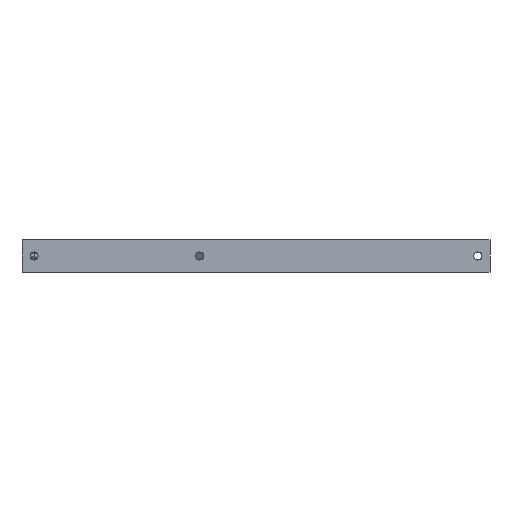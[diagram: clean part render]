
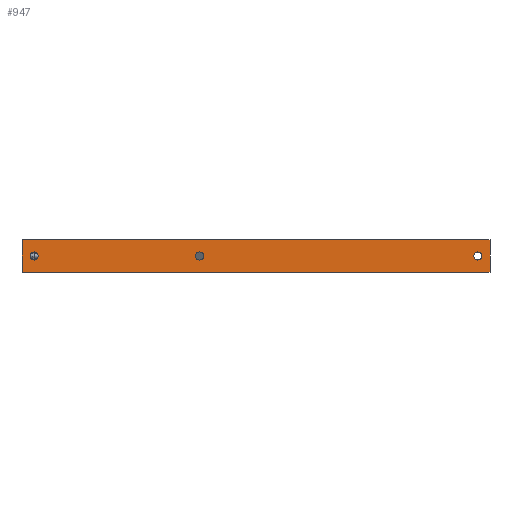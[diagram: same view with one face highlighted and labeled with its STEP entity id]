
A CAD part, left-side view. The second image highlights one B-rep face of the part: STEP entity #947.
In plain terms, the highlighted planar face has unit normal (-1, 0, 0).
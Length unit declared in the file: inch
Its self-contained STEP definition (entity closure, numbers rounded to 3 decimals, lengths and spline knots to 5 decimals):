
#10 = EDGE_CURVE ( 'NONE', #1964, #1971, #92, .T. ) ;
#92 = CIRCLE ( 'NONE', #1434, 0.25 ) ;
#134 = CIRCLE ( 'NONE', #1475, 0.25 ) ;
#198 = LINE ( 'NONE', #1799, #246 ) ;
#246 = VECTOR ( 'NONE', #1751, 39.37008 ) ;
#251 = VECTOR ( 'NONE', #1892, 39.37008 ) ;
#278 = CIRCLE ( 'NONE', #1453, 0.25 ) ;
#330 = VECTOR ( 'NONE', #2103, 39.37008 ) ;
#331 = LINE ( 'NONE', #2072, #330 ) ;
#334 = CIRCLE ( 'NONE', #1462, 0.25 ) ;
#340 = CIRCLE ( 'NONE', #1447, 0.25 ) ;
#408 = LINE ( 'NONE', #1881, #251 ) ;
#430 = CIRCLE ( 'NONE', #1471, 0.25 ) ;
#526 = FACE_BOUND ( 'NONE', #1067, .T. ) ;
#530 = FACE_BOUND ( 'NONE', #1025, .T. ) ;
#533 = FACE_BOUND ( 'NONE', #1037, .T. ) ;
#537 = FACE_OUTER_BOUND ( 'NONE', #1018, .T. ) ;
#559 = VECTOR ( 'NONE', #2137, 39.37008 ) ;
#563 = LINE ( 'NONE', #2133, #559 ) ;
#600 = EDGE_CURVE ( 'NONE', #1971, #1964, #340, .T. ) ;
#603 = EDGE_CURVE ( 'NONE', #1983, #1984, #198, .T. ) ;
#623 = EDGE_CURVE ( 'NONE', #2043, #1978, #278, .T. ) ;
#626 = EDGE_CURVE ( 'NONE', #1986, #1988, #408, .T. ) ;
#635 = EDGE_CURVE ( 'NONE', #1976, #1967, #334, .T. ) ;
#638 = EDGE_CURVE ( 'NONE', #1988, #1984, #331, .T. ) ;
#661 = EDGE_CURVE ( 'NONE', #1986, #1983, #563, .T. ) ;
#671 = EDGE_CURVE ( 'NONE', #1978, #2043, #430, .T. ) ;
#672 = EDGE_CURVE ( 'NONE', #1967, #1976, #134, .T. ) ;
#947 = ADVANCED_FACE ( 'NONE', ( #526, #530, #533, #537 ), #2331, .T. ) ;
#1018 = EDGE_LOOP ( 'NONE', ( #1194, #1200, #1199, #1197 ) ) ;
#1025 = EDGE_LOOP ( 'NONE', ( #1237, #1188 ) ) ;
#1037 = EDGE_LOOP ( 'NONE', ( #1198, #1231 ) ) ;
#1067 = EDGE_LOOP ( 'NONE', ( #1239, #1238 ) ) ;
#1188 = ORIENTED_EDGE ( 'NONE', *, *, #600, .F. ) ;
#1194 = ORIENTED_EDGE ( 'NONE', *, *, #603, .F. ) ;
#1197 = ORIENTED_EDGE ( 'NONE', *, *, #638, .T. ) ;
#1198 = ORIENTED_EDGE ( 'NONE', *, *, #635, .F. ) ;
#1199 = ORIENTED_EDGE ( 'NONE', *, *, #626, .T. ) ;
#1200 = ORIENTED_EDGE ( 'NONE', *, *, #661, .F. ) ;
#1231 = ORIENTED_EDGE ( 'NONE', *, *, #672, .F. ) ;
#1237 = ORIENTED_EDGE ( 'NONE', *, *, #10, .F. ) ;
#1238 = ORIENTED_EDGE ( 'NONE', *, *, #623, .F. ) ;
#1239 = ORIENTED_EDGE ( 'NONE', *, *, #671, .F. ) ;
#1434 = AXIS2_PLACEMENT_3D ( 'NONE', #2049, #1960, #1958 ) ;
#1447 = AXIS2_PLACEMENT_3D ( 'NONE', #1853, #1739, #1798 ) ;
#1453 = AXIS2_PLACEMENT_3D ( 'NONE', #1884, #1885, #1886 ) ;
#1462 = AXIS2_PLACEMENT_3D ( 'NONE', #1740, #2060, #2059 ) ;
#1471 = AXIS2_PLACEMENT_3D ( 'NONE', #2167, #2168, #2169 ) ;
#1475 = AXIS2_PLACEMENT_3D ( 'NONE', #2170, #2171, #2172 ) ;
#1509 = AXIS2_PLACEMENT_3D ( 'NONE', #2332, #2333, #2334 ) ;
#1739 = DIRECTION ( 'NONE',  ( -1., 0., 0. ) ) ;
#1740 = CARTESIAN_POINT ( 'NONE',  ( -0.1875, -26.25, -1. ) ) ;
#1751 = DIRECTION ( 'NONE',  ( 0., -1., 0. ) ) ;
#1798 = DIRECTION ( 'NONE',  ( 0., 0., 1. ) ) ;
#1799 = CARTESIAN_POINT ( 'NONE',  ( -0.1875, -27., 0. ) ) ;
#1853 = CARTESIAN_POINT ( 'NONE',  ( -0.1875, -9., -1. ) ) ;
#1881 = CARTESIAN_POINT ( 'NONE',  ( -0.1875, -27., -2. ) ) ;
#1884 = CARTESIAN_POINT ( 'NONE',  ( -0.1875, 1.25, -1. ) ) ;
#1885 = DIRECTION ( 'NONE',  ( -1., 0., 0. ) ) ;
#1886 = DIRECTION ( 'NONE',  ( 0., 0., 1. ) ) ;
#1892 = DIRECTION ( 'NONE',  ( 0., -1., 0. ) ) ;
#1958 = DIRECTION ( 'NONE',  ( 0., 0., 1. ) ) ;
#1960 = DIRECTION ( 'NONE',  ( -1., 0., 0. ) ) ;
#1964 = VERTEX_POINT ( 'NONE', #2609 ) ;
#1967 = VERTEX_POINT ( 'NONE', #2612 ) ;
#1971 = VERTEX_POINT ( 'NONE', #2616 ) ;
#1976 = VERTEX_POINT ( 'NONE', #2621 ) ;
#1978 = VERTEX_POINT ( 'NONE', #2623 ) ;
#1983 = VERTEX_POINT ( 'NONE', #2628 ) ;
#1984 = VERTEX_POINT ( 'NONE', #2629 ) ;
#1986 = VERTEX_POINT ( 'NONE', #2631 ) ;
#1988 = VERTEX_POINT ( 'NONE', #2633 ) ;
#2043 = VERTEX_POINT ( 'NONE', #2671 ) ;
#2049 = CARTESIAN_POINT ( 'NONE',  ( -0.1875, -9., -1. ) ) ;
#2059 = DIRECTION ( 'NONE',  ( 0., 0., 1. ) ) ;
#2060 = DIRECTION ( 'NONE',  ( -1., 0., 0. ) ) ;
#2072 = CARTESIAN_POINT ( 'NONE',  ( -0.1875, -27., -2. ) ) ;
#2103 = DIRECTION ( 'NONE',  ( 0., 0., 1. ) ) ;
#2133 = CARTESIAN_POINT ( 'NONE',  ( -0.1875, 2., -2. ) ) ;
#2137 = DIRECTION ( 'NONE',  ( 0., 0., 1. ) ) ;
#2167 = CARTESIAN_POINT ( 'NONE',  ( -0.1875, 1.25, -1. ) ) ;
#2168 = DIRECTION ( 'NONE',  ( -1., 0., 0. ) ) ;
#2169 = DIRECTION ( 'NONE',  ( 0., 0., 1. ) ) ;
#2170 = CARTESIAN_POINT ( 'NONE',  ( -0.1875, -26.25, -1. ) ) ;
#2171 = DIRECTION ( 'NONE',  ( -1., 0., 0. ) ) ;
#2172 = DIRECTION ( 'NONE',  ( 0., 0., 1. ) ) ;
#2331 = PLANE ( 'NONE',  #1509 ) ;
#2332 = CARTESIAN_POINT ( 'NONE',  ( -0.1875, -27., -2. ) ) ;
#2333 = DIRECTION ( 'NONE',  ( -1., 0., 0. ) ) ;
#2334 = DIRECTION ( 'NONE',  ( 0., 0., 1. ) ) ;
#2609 = CARTESIAN_POINT ( 'NONE',  ( -0.1875, -9., -0.75 ) ) ;
#2612 = CARTESIAN_POINT ( 'NONE',  ( -0.1875, -26.25, -1.25 ) ) ;
#2616 = CARTESIAN_POINT ( 'NONE',  ( -0.1875, -9., -1.25 ) ) ;
#2621 = CARTESIAN_POINT ( 'NONE',  ( -0.1875, -26.25, -0.75 ) ) ;
#2623 = CARTESIAN_POINT ( 'NONE',  ( -0.1875, 1.25, -0.75 ) ) ;
#2628 = CARTESIAN_POINT ( 'NONE',  ( -0.1875, 2., 0. ) ) ;
#2629 = CARTESIAN_POINT ( 'NONE',  ( -0.1875, -27., 0. ) ) ;
#2631 = CARTESIAN_POINT ( 'NONE',  ( -0.1875, 2., -2. ) ) ;
#2633 = CARTESIAN_POINT ( 'NONE',  ( -0.1875, -27., -2. ) ) ;
#2671 = CARTESIAN_POINT ( 'NONE',  ( -0.1875, 1.25, -1.25 ) ) ;
